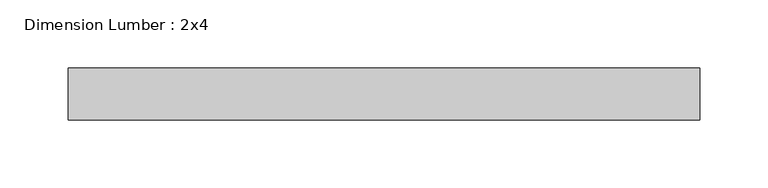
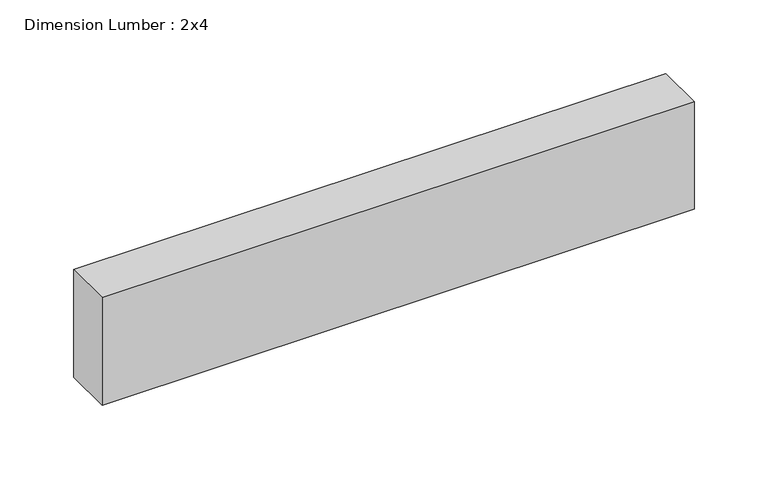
"""IFC4 building model written with IfcOpenShell, lengths in millimetres: beam geometry, Dimension Lumber : 2x4."""

from ifc_helpers import new_model, si_unit, frame, origin, place, context, project, spatial, polyline, outline, extrude, source, transform, mapped, element, save


def dimension_lumber_2x4_35460a43(model_context):
    return source(origin(), model_context, "Body", "SweptSolid", [
        extrude(outline(polyline([(231.3779134, 19.05), (231.3779134, -19.05), (-231.3779134, -19.05), (-231.3779134, 19.05), (231.3779134, 19.05)])), frame((0.0, 0.0, -44.45), z_axis=(0.0, 0.0, 1.0), x_axis=(1.0, 0.0, 0.0)), (0.0, 0.0, 1.0), 88.9),
    ])


if __name__ == "__main__":
    model = new_model("IFC4")
    model_context = context("Model", 3, world=origin())
    ifc_project = project(units=[si_unit("LENGTHUNIT", "METRE", prefix="MILLI")], contexts=[model_context])
    site = spatial("IfcSite", under=ifc_project)
    building = spatial("IfcBuilding", under=site)
    placement = place(None, origin())
    dimension_lumber_2x4_shape = dimension_lumber_2x4_35460a43(model_context)
    element("IfcBeam", 1, ObjectType="Dimension Lumber : 2x4", at=placement, inside=building, context=model_context, shape_type="MappedRepresentation", body=[
        mapped(dimension_lumber_2x4_shape, transform((0.0, 0.0, 0.0), x_axis=(1.0, 0.0, 0.0), y_axis=(0.0, 1.0, 0.0), z_axis=(0.0, 0.0, 1.0))),
    ])
    save(model, "model.ifc")
